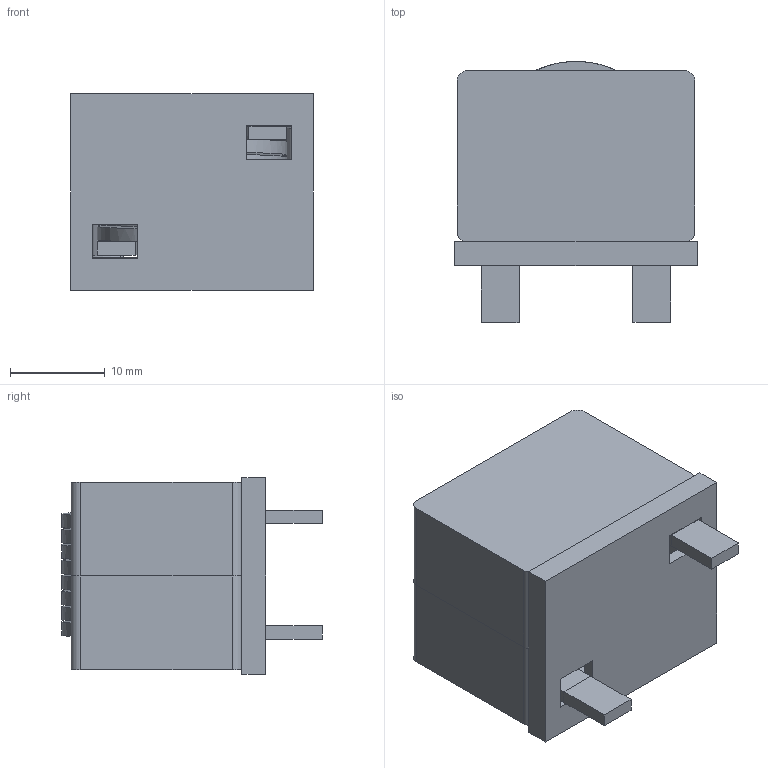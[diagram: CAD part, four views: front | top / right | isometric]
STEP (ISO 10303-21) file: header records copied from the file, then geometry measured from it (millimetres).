
FILE_DESCRIPTION (( 'STEP AP214' ), '1' );
FILE_NAME ('IHDM1008BCEB8R2MVA.STEP', '2018-12-06T16:48:14', ( '' ), ( '' ), 'SwSTEP 2.0', 'SolidWorks 2018', '' );
FILE_SCHEMA (( 'AUTOMOTIVE_DESIGN' ));
Length unit declared in the file: millimetre
Products named in the file (4): header with locate fixture_No Draft or Fillet; Coil 8 turn; RK2518; IHDM1008BCEB8R2MVA
Assembly tree (4 placements, depth 2):
  IHDM1008BCEB8R2MVA
    RK2518  x2
    Coil 8 turn
    header with locate fixture_No Draft or Fillet
Bounding box: 25.53 x 27.5 x 20.73 mm (x, y, z)
Volume: 8552 mm3; surface area: 9766.4 mm2
Topology: 4 solids, 4 shells, 123 faces, 310 edges, 188 vertices
Faces by surface type: plane 67, cylinder 32, torus 16, bspline 8
Entity records: 4906 total; most frequent: CARTESIAN_POINT 2321, ORIENTED_EDGE 436, DIRECTION 418, EDGE_CURVE 218, VECTOR 156, LINE 156, VERTEX_POINT 134, AXIS2_PLACEMENT_3D 131
